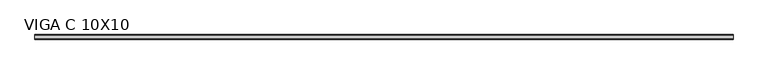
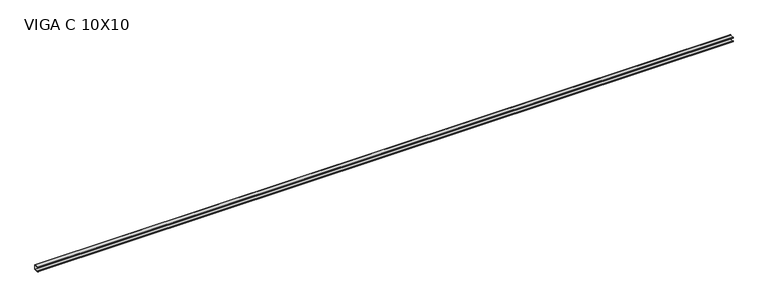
"""IFC4 building model written with IfcOpenShell, lengths in millimetres: beam geometry, VIGA PERFIL C AÇO : VIGA C 10X10."""

from ifc_helpers import new_model, si_unit, point, frame, frame_2d, origin, place, context, project, spatial, polyline, circle_curve, trimmed, segment, composite_curve, outline, extrude, source, transform, mapped, element, save


def viga_c_10x10_a960db8e(model_context):
    return source(origin(), model_context, "Body", "SweptSolid", [
        extrude(outline(polyline([(9.2, -50.0), (-90.8, -50.0), (-90.8, -30.0), (-88.9, -30.0), (-88.9, -48.1), (7.3, -48.1), (7.3, 48.1), (-88.9, 48.1), (-88.9, 30.0), (-90.8, 30.0), (-90.8, 50.0), (9.2, 50.0), (9.2, -50.0)])), frame((-7595.0, 0.0, 0.0), z_axis=(1.0, 0.0, 0.0), x_axis=(0.0, 1.0, 0.0)), (0.0, 0.0, 1.0), 15190.0),
        extrude(outline(composite_curve([segment(trimmed(circle_curve(frame_2d((5.4, -46.2)), 3.8), [point((9.2, -46.2))], [point((5.4, -50.0))], False, "CARTESIAN"), True, "CONTINUOUS"), segment(polyline([(5.4, -50.0), (-87.0, -50.0)]), True, "CONTINUOUS"), segment(trimmed(circle_curve(frame_2d((-87.0, -46.2)), 3.8), [point((-87.0, -50.0))], [point((-90.8, -46.2))], False, "CARTESIAN"), True, "CONTINUOUS"), segment(polyline([(-90.8, -46.2), (-90.8, -30.0), (-88.9, -30.0), (-88.9, -46.2)]), True, "CONTINUOUS"), segment(trimmed(circle_curve(frame_2d((-87.0, -46.2)), 1.9), [point((-88.9, -46.2))], [point((-87.0, -48.1))], True, "CARTESIAN"), True, "CONTINUOUS"), segment(polyline([(-87.0, -48.1), (5.4, -48.1)]), True, "CONTINUOUS"), segment(trimmed(circle_curve(frame_2d((5.4, -46.2)), 1.9), [point((5.4, -48.1))], [point((7.3, -46.2))], True, "CARTESIAN"), True, "CONTINUOUS"), segment(polyline([(7.3, -46.2), (7.3, 46.2)]), True, "CONTINUOUS"), segment(trimmed(circle_curve(frame_2d((5.4, 46.2)), 1.9), [point((7.3, 46.2))], [point((5.4, 48.1))], True, "CARTESIAN"), True, "CONTINUOUS"), segment(polyline([(5.4, 48.1), (-87.0, 48.1)]), True, "CONTINUOUS"), segment(trimmed(circle_curve(frame_2d((-87.0, 46.2)), 1.9), [point((-87.0, 48.1))], [point((-88.9, 46.2))], True, "CARTESIAN"), True, "CONTINUOUS"), segment(polyline([(-88.9, 46.2), (-88.9, 30.0), (-90.8, 30.0), (-90.8, 46.2)]), True, "CONTINUOUS"), segment(trimmed(circle_curve(frame_2d((-87.0, 46.2)), 3.8), [point((-90.8, 46.2))], [point((-87.0, 50.0))], False, "CARTESIAN"), True, "CONTINUOUS"), segment(polyline([(-87.0, 50.0), (5.4, 50.0)]), True, "CONTINUOUS"), segment(trimmed(circle_curve(frame_2d((5.4, 46.2)), 3.8), [point((5.4, 50.0))], [point((9.2, 46.2))], False, "CARTESIAN"), True, "CONTINUOUS"), segment(polyline([(9.2, 46.2), (9.2, -46.2)]), True, "CONTINUOUS")], self_intersect=False)), frame((-7595.0, 0.0, 0.0), z_axis=(1.0, 0.0, 0.0), x_axis=(0.0, 1.0, 0.0)), (0.0, 0.0, 1.0), 15190.0),
    ])


if __name__ == "__main__":
    model = new_model("IFC4")
    model_context = context("Model", 3, world=origin())
    ifc_project = project(units=[si_unit("LENGTHUNIT", "METRE", prefix="MILLI")], contexts=[model_context])
    site = spatial("IfcSite", under=ifc_project)
    building = spatial("IfcBuilding", under=site)
    placement = place(None, origin())
    viga_c_10x10_shape = viga_c_10x10_a960db8e(model_context)
    element("IfcBeam", 1, ObjectType="VIGA PERFIL C AÇO : VIGA C 10X10", at=placement, inside=building, context=model_context, shape_type="MappedRepresentation", body=[
        mapped(viga_c_10x10_shape, transform((0.0, 0.0, 0.0), x_axis=(1.0, 0.0, 0.0), y_axis=(0.0, 1.0, 0.0), z_axis=(0.0, 0.0, 1.0))),
    ])
    save(model, "model.ifc")
